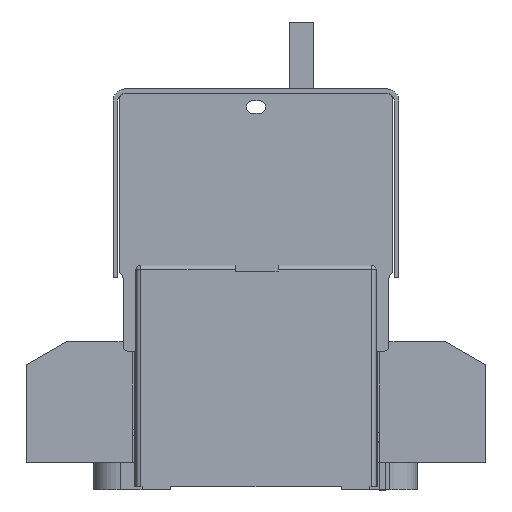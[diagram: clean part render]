
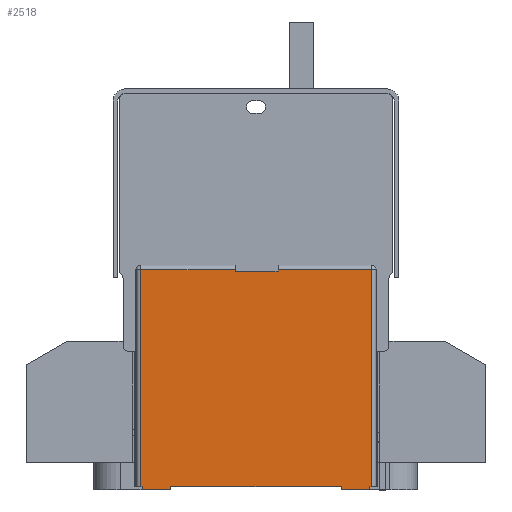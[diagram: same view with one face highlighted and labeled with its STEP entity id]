
A CAD part, left-side view. The second image highlights one B-rep face of the part: STEP entity #2518.
In plain terms, the highlighted planar face has unit normal (-1, 0, 0).
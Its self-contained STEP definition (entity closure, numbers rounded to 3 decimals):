
#2518=ADVANCED_FACE('',(#4359),#3297,.F.);
#3297=PLANE('',#24497);
#4359=FACE_OUTER_BOUND('',#5677,.T.);
#5677=EDGE_LOOP('',(#11664,#11665,#11666,#11667,#11668,#11669,#11670,#11671,
#11672,#11673,#11674,#11675,#11676,#11677,#11678,#11679));
#11664=ORIENTED_EDGE('',*,*,#17625,.F.);
#11665=ORIENTED_EDGE('',*,*,#17420,.T.);
#11666=ORIENTED_EDGE('',*,*,#17244,.T.);
#11667=ORIENTED_EDGE('',*,*,#17627,.F.);
#11668=ORIENTED_EDGE('',*,*,#17247,.T.);
#11669=ORIENTED_EDGE('',*,*,#17380,.T.);
#11670=ORIENTED_EDGE('',*,*,#17628,.T.);
#11671=ORIENTED_EDGE('',*,*,#17629,.T.);
#11672=ORIENTED_EDGE('',*,*,#17630,.F.);
#11673=ORIENTED_EDGE('',*,*,#17461,.F.);
#11674=ORIENTED_EDGE('',*,*,#17466,.T.);
#11675=ORIENTED_EDGE('',*,*,#17631,.T.);
#11676=ORIENTED_EDGE('',*,*,#17474,.F.);
#11677=ORIENTED_EDGE('',*,*,#17468,.F.);
#11678=ORIENTED_EDGE('',*,*,#17632,.T.);
#11679=ORIENTED_EDGE('',*,*,#17633,.T.);
#14205=VERTEX_POINT('',#36604);
#14206=VERTEX_POINT('',#36606);
#14208=VERTEX_POINT('',#36612);
#14209=VERTEX_POINT('',#36613);
#14297=VERTEX_POINT('',#36918);
#14298=VERTEX_POINT('',#36922);
#14338=VERTEX_POINT('',#37087);
#14339=VERTEX_POINT('',#37088);
#14343=VERTEX_POINT('',#37097);
#14344=VERTEX_POINT('',#37102);
#14345=VERTEX_POINT('',#37103);
#14348=VERTEX_POINT('',#37111);
#14439=VERTEX_POINT('',#37400);
#14440=VERTEX_POINT('',#37405);
#14441=VERTEX_POINT('',#37407);
#14442=VERTEX_POINT('',#37411);
#17244=EDGE_CURVE('',#14206,#14205,#19856,.T.);
#17247=EDGE_CURVE('',#14208,#14209,#19858,.T.);
#17380=EDGE_CURVE('',#14209,#14298,#19928,.T.);
#17420=EDGE_CURVE('',#14297,#14206,#19944,.T.);
#17461=EDGE_CURVE('',#14338,#14339,#19979,.T.);
#17466=EDGE_CURVE('',#14338,#14343,#19984,.T.);
#17468=EDGE_CURVE('',#14344,#14345,#19986,.T.);
#17474=EDGE_CURVE('',#14345,#14348,#19992,.T.);
#17625=EDGE_CURVE('',#14297,#14439,#20129,.T.);
#17627=EDGE_CURVE('',#14208,#14205,#20130,.T.);
#17628=EDGE_CURVE('',#14298,#14440,#20131,.T.);
#17629=EDGE_CURVE('',#14440,#14441,#20132,.T.);
#17630=EDGE_CURVE('',#14339,#14441,#20133,.T.);
#17631=EDGE_CURVE('',#14343,#14348,#20134,.T.);
#17632=EDGE_CURVE('',#14344,#14442,#20135,.T.);
#17633=EDGE_CURVE('',#14442,#14439,#20136,.T.);
#19856=LINE('',#36605,#22345);
#19858=LINE('',#36611,#22347);
#19928=LINE('',#36923,#22417);
#19944=LINE('',#37003,#22433);
#19979=LINE('',#37086,#22468);
#19984=LINE('',#37098,#22473);
#19986=LINE('',#37101,#22475);
#19992=LINE('',#37114,#22481);
#20129=LINE('',#37399,#22618);
#20130=LINE('',#37403,#22619);
#20131=LINE('',#37404,#22620);
#20132=LINE('',#37406,#22621);
#20133=LINE('',#37408,#22622);
#20134=LINE('',#37409,#22623);
#20135=LINE('',#37410,#22624);
#20136=LINE('',#37412,#22625);
#22345=VECTOR('',#29695,1.);
#22347=VECTOR('',#29701,1.);
#22417=VECTOR('',#29989,1.);
#22433=VECTOR('',#30101,1.);
#22468=VECTOR('',#30186,1.);
#22473=VECTOR('',#30193,1.);
#22475=VECTOR('',#30197,1.);
#22481=VECTOR('',#30205,1.);
#22618=VECTOR('',#30460,1.);
#22619=VECTOR('',#30465,1.);
#22620=VECTOR('',#30466,1.);
#22621=VECTOR('',#30467,1.);
#22622=VECTOR('',#30468,1.);
#22623=VECTOR('',#30469,1.);
#22624=VECTOR('',#30470,1.);
#22625=VECTOR('',#30471,1.);
#24497=AXIS2_PLACEMENT_3D('',#37413,#30472,#30473);
#29695=DIRECTION('',(0.,0.,-1.));
#29701=DIRECTION('',(0.,0.,1.));
#29989=DIRECTION('',(0.,1.,0.));
#30101=DIRECTION('',(0.,1.,0.));
#30186=DIRECTION('',(0.,1.,0.));
#30193=DIRECTION('',(0.,0.,1.));
#30197=DIRECTION('',(0.,1.,0.));
#30205=DIRECTION('',(0.,0.,1.));
#30460=DIRECTION('',(0.,0.,-1.));
#30465=DIRECTION('',(0.,-1.,0.));
#30466=DIRECTION('',(0.,0.,-1.));
#30467=DIRECTION('',(0.,-1.,0.));
#30468=DIRECTION('',(0.,0.,1.));
#30469=DIRECTION('',(0.,-1.,0.));
#30470=DIRECTION('',(0.,0.,1.));
#30471=DIRECTION('',(0.,-1.,0.));
#30472=DIRECTION('',(1.,0.,0.));
#30473=DIRECTION('',(0.,0.,-1.));
#36604=CARTESIAN_POINT('',(-69.,-31.985,67.));
#36605=CARTESIAN_POINT('',(-69.,-31.985,69.1));
#36606=CARTESIAN_POINT('',(-69.,-31.985,67.6));
#36611=CARTESIAN_POINT('',(-69.,-17.985,69.1));
#36612=CARTESIAN_POINT('',(-69.,-17.985,67.));
#36613=CARTESIAN_POINT('',(-69.,-17.985,67.6));
#36918=CARTESIAN_POINT('',(-69.,-62.735,67.6));
#36922=CARTESIAN_POINT('',(-69.,13.265,67.6));
#36923=CARTESIAN_POINT('',(-69.,13.265,67.6));
#37003=CARTESIAN_POINT('',(-69.,13.265,67.6));
#37086=CARTESIAN_POINT('',(-69.,3.265,-4.9));
#37087=CARTESIAN_POINT('',(-69.,3.265,-4.9));
#37088=CARTESIAN_POINT('',(-69.,12.765,-4.9));
#37097=CARTESIAN_POINT('',(-69.,3.265,-3.9));
#37098=CARTESIAN_POINT('',(-69.,3.265,-5.9));
#37101=CARTESIAN_POINT('',(-69.,-62.235,-4.9));
#37102=CARTESIAN_POINT('',(-69.,-62.235,-4.9));
#37103=CARTESIAN_POINT('',(-69.,-52.735,-4.9));
#37111=CARTESIAN_POINT('',(-69.,-52.735,-3.9));
#37114=CARTESIAN_POINT('',(-69.,-52.735,-5.9));
#37399=CARTESIAN_POINT('',(-69.,-62.735,69.1));
#37400=CARTESIAN_POINT('',(-69.,-62.735,-3.9));
#37403=CARTESIAN_POINT('',(-69.,12.765,67.));
#37404=CARTESIAN_POINT('',(-69.,13.265,69.1));
#37405=CARTESIAN_POINT('',(-69.,13.265,-3.9));
#37406=CARTESIAN_POINT('',(-69.,-62.235,-3.9));
#37407=CARTESIAN_POINT('',(-69.,12.765,-3.9));
#37408=CARTESIAN_POINT('',(-69.,12.765,-5.9));
#37409=CARTESIAN_POINT('',(-69.,-62.235,-3.9));
#37410=CARTESIAN_POINT('',(-69.,-62.235,-5.9));
#37411=CARTESIAN_POINT('',(-69.,-62.235,-3.9));
#37412=CARTESIAN_POINT('',(-69.,-62.235,-3.9));
#37413=CARTESIAN_POINT('',(-69.,-62.235,69.1));
